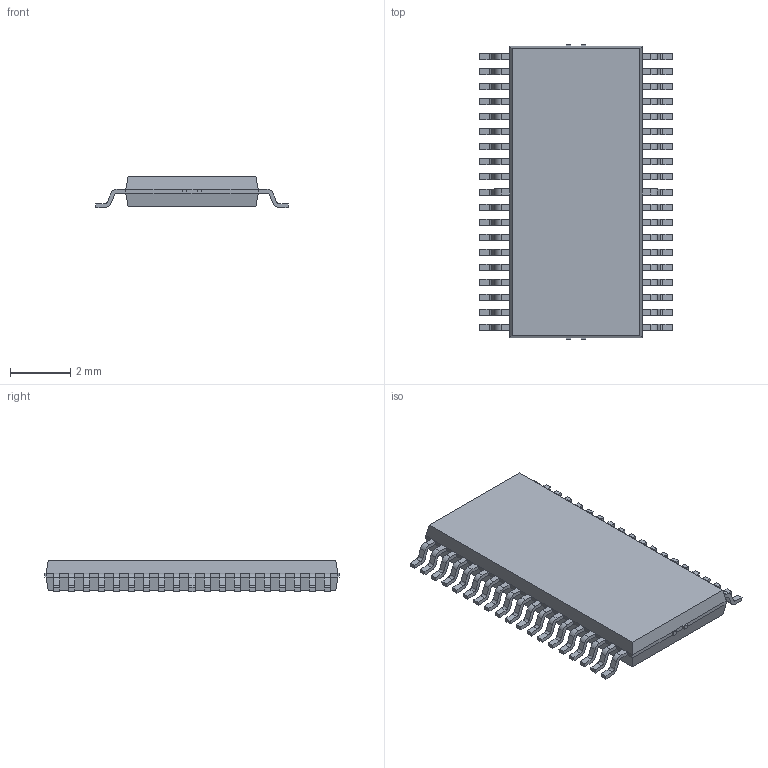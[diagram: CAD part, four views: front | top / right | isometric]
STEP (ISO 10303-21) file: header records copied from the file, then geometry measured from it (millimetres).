
FILE_DESCRIPTION (( 'STEP AP214' ), '1' );
FILE_NAME ('LV38.STEP', '2017-12-13T14:54:10', ( '' ), ( '' ), 'SwSTEP 2.0', 'SolidWorks 2015', '' );
FILE_SCHEMA (( 'AUTOMOTIVE_DESIGN' ));
Length unit declared in the file: millimetre
Products named in the file (1): LV38
Bounding box: 6.4 x 9.8 x 1.05 mm (x, y, z)
Volume: 43 mm3; surface area: 141 mm2
Topology: 1 solids, 1 shells, 571 faces, 1544 edges, 976 vertices
Faces by surface type: plane 419, cylinder 152
Entity records: 18296 total; most frequent: CARTESIAN_POINT 3092, ORIENTED_EDGE 3088, DIRECTION 2996, EDGE_CURVE 1544, LINE 1236, VECTOR 1236, VERTEX_POINT 976, AXIS2_PLACEMENT_3D 880
